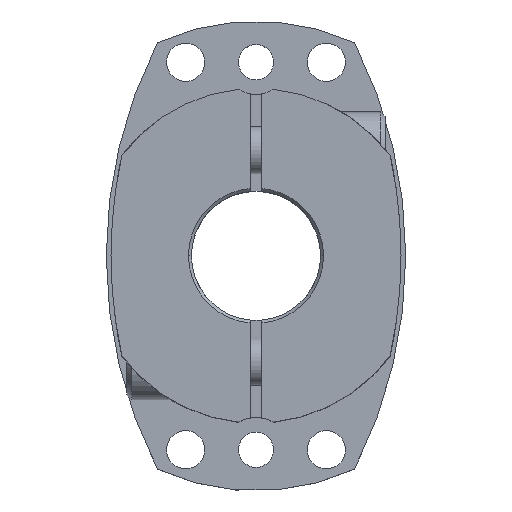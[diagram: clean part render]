
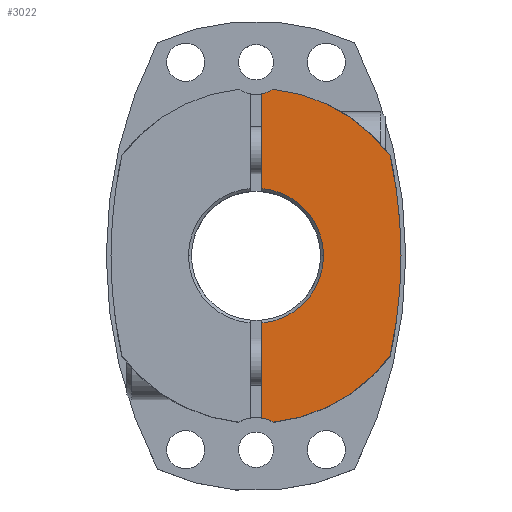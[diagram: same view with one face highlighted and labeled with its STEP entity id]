
A CAD part, top view. The second image highlights one B-rep face of the part: STEP entity #3022.
In plain terms, the highlighted planar face has unit normal (0, 0, 1).
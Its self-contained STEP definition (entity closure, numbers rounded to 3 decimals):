
#373=CARTESIAN_POINT('',(11.5,0.,25.5));
#374=VERTEX_POINT('',#373);
#381=CARTESIAN_POINT('',(1.,11.456,25.5));
#382=VERTEX_POINT('',#381);
#383=CARTESIAN_POINT('',(0.,0.,25.5));
#384=DIRECTION('',(0.0,0.0,1.0));
#385=DIRECTION('',(-1.0,0.0,0.0));
#386=AXIS2_PLACEMENT_3D('',#383,#384,#385);
#387=CIRCLE('',#386,11.5);
#388=EDGE_CURVE('',#374,#382,#387,.T.);
#537=CARTESIAN_POINT('',(24.7,0.,25.5));
#538=VERTEX_POINT('',#537);
#634=CARTESIAN_POINT('',(22.845,17.039,25.5));
#635=VERTEX_POINT('',#634);
#642=CARTESIAN_POINT('',(-54.5,0.,25.5));
#643=DIRECTION('',(0.0,0.0,-1.0));
#644=DIRECTION('',(1.0,0.0,0.0));
#645=AXIS2_PLACEMENT_3D('',#642,#643,#644);
#646=CIRCLE('',#645,79.2);
#647=EDGE_CURVE('',#635,#538,#646,.T.);
#2323=CARTESIAN_POINT('',(2.935,28.348,25.5));
#2324=VERTEX_POINT('',#2323);
#2331=CARTESIAN_POINT('',(0.,0.,25.5));
#2332=DIRECTION('',(0.0,0.0,-1.0));
#2333=DIRECTION('',(1.0,0.0,0.0));
#2334=AXIS2_PLACEMENT_3D('',#2331,#2332,#2333);
#2335=CIRCLE('',#2334,28.5);
#2336=EDGE_CURVE('',#2324,#635,#2335,.T.);
#2563=CARTESIAN_POINT('',(22.845,-17.039,25.5));
#2564=VERTEX_POINT('',#2563);
#2565=CARTESIAN_POINT('',(-54.5,0.,25.5));
#2566=DIRECTION('',(0.0,0.0,-1.0));
#2567=DIRECTION('',(1.0,0.0,0.0));
#2568=AXIS2_PLACEMENT_3D('',#2565,#2566,#2567);
#2569=CIRCLE('',#2568,79.2);
#2570=EDGE_CURVE('',#538,#2564,#2569,.T.);
#2687=CARTESIAN_POINT('',(1.,-27.592,25.5));
#2688=VERTEX_POINT('',#2687);
#2704=CARTESIAN_POINT('',(2.935,-28.348,25.5));
#2705=VERTEX_POINT('',#2704);
#2712=CARTESIAN_POINT('',(0.,-33.,25.5));
#2713=DIRECTION('',(0.0,0.0,-1.0));
#2714=DIRECTION('',(1.0,0.0,0.0));
#2715=AXIS2_PLACEMENT_3D('',#2712,#2713,#2714);
#2716=CIRCLE('',#2715,5.5);
#2717=EDGE_CURVE('',#2688,#2705,#2716,.T.);
#2896=CARTESIAN_POINT('',(1.,27.592,25.5));
#2897=VERTEX_POINT('',#2896);
#2904=CARTESIAN_POINT('',(0.,33.,25.5));
#2905=DIRECTION('',(0.0,0.0,-1.0));
#2906=DIRECTION('',(1.0,0.0,0.0));
#2907=AXIS2_PLACEMENT_3D('',#2904,#2905,#2906);
#2908=CIRCLE('',#2907,5.5);
#2909=EDGE_CURVE('',#2324,#2897,#2908,.T.);
#2944=CARTESIAN_POINT('',(1.,-11.456,25.5));
#2945=VERTEX_POINT('',#2944);
#2946=CARTESIAN_POINT('',(1.,-11.456,25.5));
#2947=DIRECTION('',(0.0,-1.0,0.0));
#2948=VECTOR('',#2947,16.135);
#2949=LINE('',#2946,#2948);
#2950=EDGE_CURVE('',#2945,#2688,#2949,.T.);
#2988=CARTESIAN_POINT('',(0.,0.,25.5));
#2989=DIRECTION('',(0.0,0.0,1.0));
#2990=DIRECTION('',(1.0,0.0,0.0));
#2991=AXIS2_PLACEMENT_3D('',#2988,#2989,#2990);
#2992=PLANE('',#2991);
#2993=ORIENTED_EDGE('',*,*,#2717,.T.);
#2994=CARTESIAN_POINT('',(0.,0.,25.5));
#2995=DIRECTION('',(0.0,0.0,-1.0));
#2996=DIRECTION('',(1.0,0.0,0.0));
#2997=AXIS2_PLACEMENT_3D('',#2994,#2995,#2996);
#2998=CIRCLE('',#2997,28.5);
#2999=EDGE_CURVE('',#2564,#2705,#2998,.T.);
#3000=ORIENTED_EDGE('',*,*,#2999,.F.);
#3001=ORIENTED_EDGE('',*,*,#2570,.F.);
#3002=ORIENTED_EDGE('',*,*,#647,.F.);
#3003=ORIENTED_EDGE('',*,*,#2336,.F.);
#3004=ORIENTED_EDGE('',*,*,#2909,.T.);
#3005=CARTESIAN_POINT('',(1.,27.592,25.5));
#3006=DIRECTION('',(0.0,-1.0,0.0));
#3007=VECTOR('',#3006,16.135);
#3008=LINE('',#3005,#3007);
#3009=EDGE_CURVE('',#2897,#382,#3008,.T.);
#3010=ORIENTED_EDGE('',*,*,#3009,.T.);
#3011=ORIENTED_EDGE('',*,*,#388,.F.);
#3012=CARTESIAN_POINT('',(0.,0.,25.5));
#3013=DIRECTION('',(0.0,0.0,1.0));
#3014=DIRECTION('',(-1.0,0.0,0.0));
#3015=AXIS2_PLACEMENT_3D('',#3012,#3013,#3014);
#3016=CIRCLE('',#3015,11.5);
#3017=EDGE_CURVE('',#2945,#374,#3016,.T.);
#3018=ORIENTED_EDGE('',*,*,#3017,.F.);
#3019=ORIENTED_EDGE('',*,*,#2950,.T.);
#3020=EDGE_LOOP('',(#2993,#3000,#3001,#3002,#3003,#3004,#3010,#3011,#3018,#3019));
#3021=FACE_OUTER_BOUND('',#3020,.T.);
#3022=ADVANCED_FACE('',(#3021),#2992,.T.);
